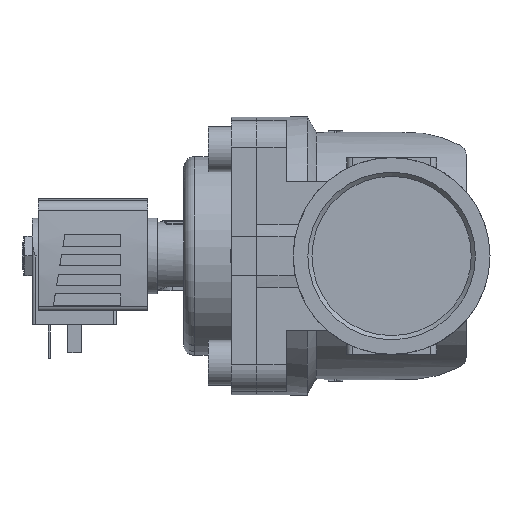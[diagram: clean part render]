
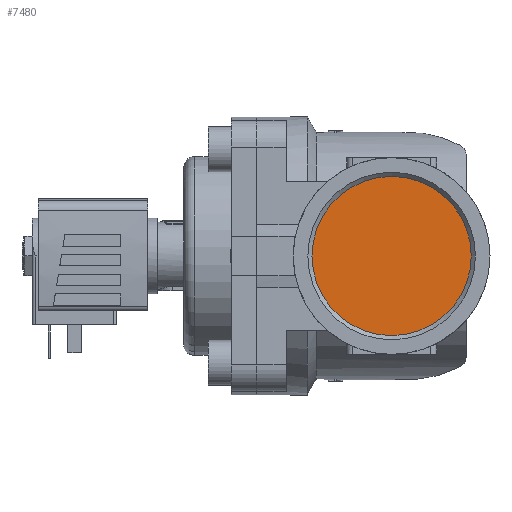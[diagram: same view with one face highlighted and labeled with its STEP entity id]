
A CAD part, left-side view. The second image highlights one B-rep face of the part: STEP entity #7480.
In plain terms, the highlighted planar face has unit normal (-1, 0, 0).
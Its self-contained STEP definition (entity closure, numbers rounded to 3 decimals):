
#2695=ORIENTED_EDGE('',*,*,#3902,.F.);
#3902=EDGE_CURVE('',#4612,#4612,#4949,.T.);
#4612=VERTEX_POINT('',#11580);
#4949=CIRCLE('',#8038,28.328);
#5262=EDGE_LOOP('',(#2695));
#5660=FACE_BOUND('',#5262,.T.);
#5952=PLANE('',#8039);
#7480=ADVANCED_FACE('',(#5660),#5952,.T.);
#8038=AXIS2_PLACEMENT_3D('',#11579,#9462,#9463);
#8039=AXIS2_PLACEMENT_3D('',#11581,#9464,#9465);
#9462=DIRECTION('',(1.,0.,0.));
#9463=DIRECTION('',(0.,1.,0.));
#9464=DIRECTION('',(-1.,0.,0.));
#9465=DIRECTION('',(0.,-1.,0.));
#11579=CARTESIAN_POINT('',(-41.,0.,0.));
#11580=CARTESIAN_POINT('',(-41.,28.328,0.));
#11581=CARTESIAN_POINT('',(-41.,28.328,0.));
